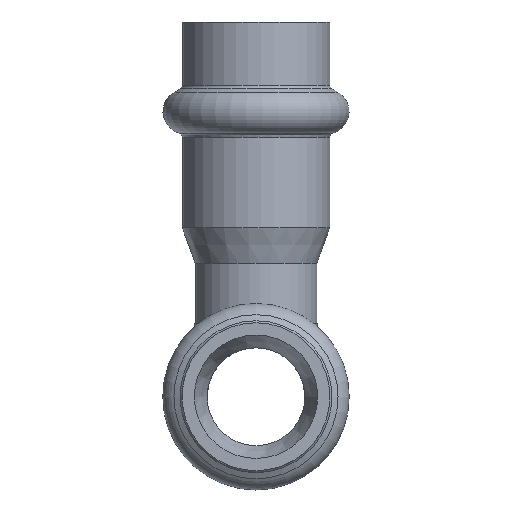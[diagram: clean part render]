
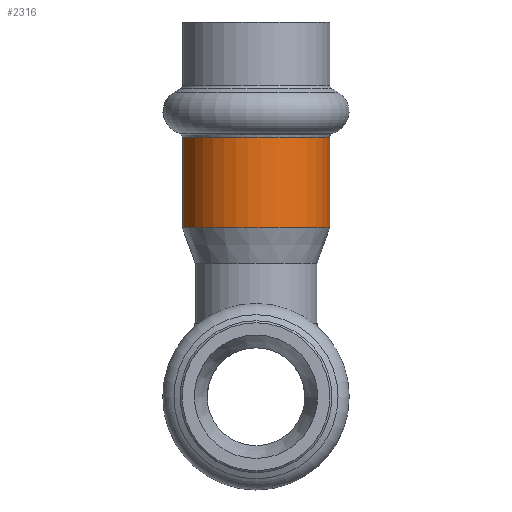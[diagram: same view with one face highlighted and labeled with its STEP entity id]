
A CAD part, left-side view. The second image highlights one B-rep face of the part: STEP entity #2316.
In plain terms, the highlighted cylindrical face has radius 9.075 mm (diameter 18.15 mm), a full revolution.
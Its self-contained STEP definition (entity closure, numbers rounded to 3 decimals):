
#2285=CARTESIAN_POINT('',(-22.87,9.075,0.));
#2286=VERTEX_POINT('',#2285);
#2287=CARTESIAN_POINT('',(-22.87,0.,0.0));
#2288=DIRECTION('',(-1.0,0.0,0.0));
#2289=DIRECTION('',(0.0,-1.0,0.0));
#2290=AXIS2_PLACEMENT_3D('',#2287,#2288,#2289);
#2291=CIRCLE('',#2290,9.075);
#2292=EDGE_CURVE('',#2286,#2286,#2291,.T.);
#2297=CARTESIAN_POINT('',(-17.506,0.,0.0));
#2298=DIRECTION('',(1.0,0.,0.0));
#2299=DIRECTION('',(0.0,1.0,0.0));
#2300=AXIS2_PLACEMENT_3D('',#2297,#2298,#2299);
#2301=CYLINDRICAL_SURFACE('',#2300,9.075);
#2302=CARTESIAN_POINT('',(-11.736,9.075,0.0));
#2303=VERTEX_POINT('',#2302);
#2304=CARTESIAN_POINT('',(-11.736,0.,0.0));
#2305=DIRECTION('',(1.0,0.0,0.0));
#2306=DIRECTION('',(0.0,1.0,0.0));
#2307=AXIS2_PLACEMENT_3D('',#2304,#2305,#2306);
#2308=CIRCLE('',#2307,9.075);
#2309=EDGE_CURVE('',#2303,#2303,#2308,.T.);
#2310=ORIENTED_EDGE('',*,*,#2309,.F.);
#2311=EDGE_LOOP('',(#2310));
#2312=FACE_OUTER_BOUND('',#2311,.T.);
#2313=ORIENTED_EDGE('',*,*,#2292,.F.);
#2314=EDGE_LOOP('',(#2313));
#2315=FACE_BOUND('',#2314,.T.);
#2316=ADVANCED_FACE('',(#2312,#2315),#2301,.T.);
